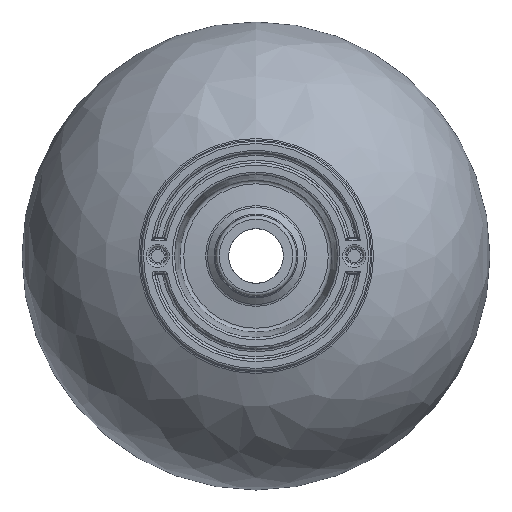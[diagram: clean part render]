
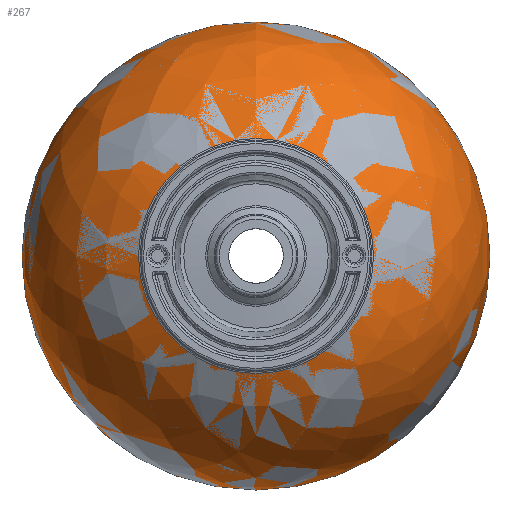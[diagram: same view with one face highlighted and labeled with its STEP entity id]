
A CAD part, front view. The second image highlights one B-rep face of the part: STEP entity #267.
In plain terms, the highlighted free-form (B-spline) face has degree [3, 3] with [4, 7] control points.
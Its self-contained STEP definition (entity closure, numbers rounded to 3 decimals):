
#67=(
BOUNDED_SURFACE()
B_SPLINE_SURFACE(3,3,((#2268,#2269,#2270,#2271,#2272,#2273,#2274),(#2275,
#2276,#2277,#2278,#2279,#2280,#2281),(#2282,#2283,#2284,#2285,#2286,#2287,
#2288),(#2289,#2290,#2291,#2292,#2293,#2294,#2295)),.UNSPECIFIED.,.F.,.T.,
 .F.)
B_SPLINE_SURFACE_WITH_KNOTS((4,4),(1,3,3,3,1),(0.,1.),(-0.5,0.,0.5,1.,1.5),
 .UNSPECIFIED.)
GEOMETRIC_REPRESENTATION_ITEM()
RATIONAL_B_SPLINE_SURFACE(((1.,0.333,0.333,1.,0.333,
0.333,1.),(0.885,0.295,0.295,
0.885,0.295,0.295,0.885),
(0.885,0.295,0.295,0.885,
0.295,0.295,0.885),(1.,0.333,
0.333,1.,0.333,0.333,1.)))
REPRESENTATION_ITEM('')
SURFACE()
);
#137=FACE_BOUND('',#463,.T.);
#138=FACE_BOUND('',#464,.T.);
#267=ADVANCED_FACE('',(#137,#138),#67,.T.);
#463=EDGE_LOOP('',(#733));
#464=EDGE_LOOP('',(#734));
#733=ORIENTED_EDGE('',*,*,#1161,.F.);
#734=ORIENTED_EDGE('',*,*,#1160,.T.);
#1030=VERTEX_POINT('',#2264);
#1031=VERTEX_POINT('',#2267);
#1160=EDGE_CURVE('',#1030,#1030,#1285,.T.);
#1161=EDGE_CURVE('',#1031,#1031,#1286,.T.);
#1285=CIRCLE('',#1394,101.);
#1286=CIRCLE('',#1396,201.148);
#1394=AXIS2_PLACEMENT_3D('',#2263,#1603,#1604);
#1396=AXIS2_PLACEMENT_3D('',#2266,#1607,#1608);
#1603=DIRECTION('',(0.,1.,0.));
#1604=DIRECTION('',(0.,0.,1.));
#1607=DIRECTION('',(0.,1.,0.));
#1608=DIRECTION('',(0.,0.,1.));
#2263=CARTESIAN_POINT('',(3141.166,2310.28,0.));
#2264=CARTESIAN_POINT('',(3141.166,2310.28,101.));
#2266=CARTESIAN_POINT('',(3141.166,2469.092,0.));
#2267=CARTESIAN_POINT('',(3141.166,2469.092,201.148));
#2268=CARTESIAN_POINT('',(3141.166,2469.092,201.148));
#2269=CARTESIAN_POINT('',(3543.461,2469.092,201.148));
#2270=CARTESIAN_POINT('',(3543.461,2469.092,-201.148));
#2271=CARTESIAN_POINT('',(3141.166,2469.092,-201.148));
#2272=CARTESIAN_POINT('',(2738.871,2469.092,-201.148));
#2273=CARTESIAN_POINT('',(2738.871,2469.092,201.148));
#2274=CARTESIAN_POINT('',(3141.166,2469.092,201.148));
#2275=CARTESIAN_POINT('',(3141.166,2398.389,203.586));
#2276=CARTESIAN_POINT('',(3548.339,2398.389,203.586));
#2277=CARTESIAN_POINT('',(3548.339,2398.389,-203.586));
#2278=CARTESIAN_POINT('',(3141.166,2398.389,-203.586));
#2279=CARTESIAN_POINT('',(2733.993,2398.389,-203.586));
#2280=CARTESIAN_POINT('',(2733.993,2398.389,203.586));
#2281=CARTESIAN_POINT('',(3141.166,2398.389,203.586));
#2282=CARTESIAN_POINT('',(3141.166,2338.549,165.851));
#2283=CARTESIAN_POINT('',(3472.868,2338.549,165.851));
#2284=CARTESIAN_POINT('',(3472.868,2338.549,-165.851));
#2285=CARTESIAN_POINT('',(3141.166,2338.549,-165.851));
#2286=CARTESIAN_POINT('',(2809.464,2338.549,-165.851));
#2287=CARTESIAN_POINT('',(2809.464,2338.549,165.851));
#2288=CARTESIAN_POINT('',(3141.166,2338.549,165.851));
#2289=CARTESIAN_POINT('',(3141.166,2310.28,101.));
#2290=CARTESIAN_POINT('',(3343.166,2310.28,101.));
#2291=CARTESIAN_POINT('',(3343.166,2310.28,-101.));
#2292=CARTESIAN_POINT('',(3141.166,2310.28,-101.));
#2293=CARTESIAN_POINT('',(2939.166,2310.28,-101.));
#2294=CARTESIAN_POINT('',(2939.166,2310.28,101.));
#2295=CARTESIAN_POINT('',(3141.166,2310.28,101.));
